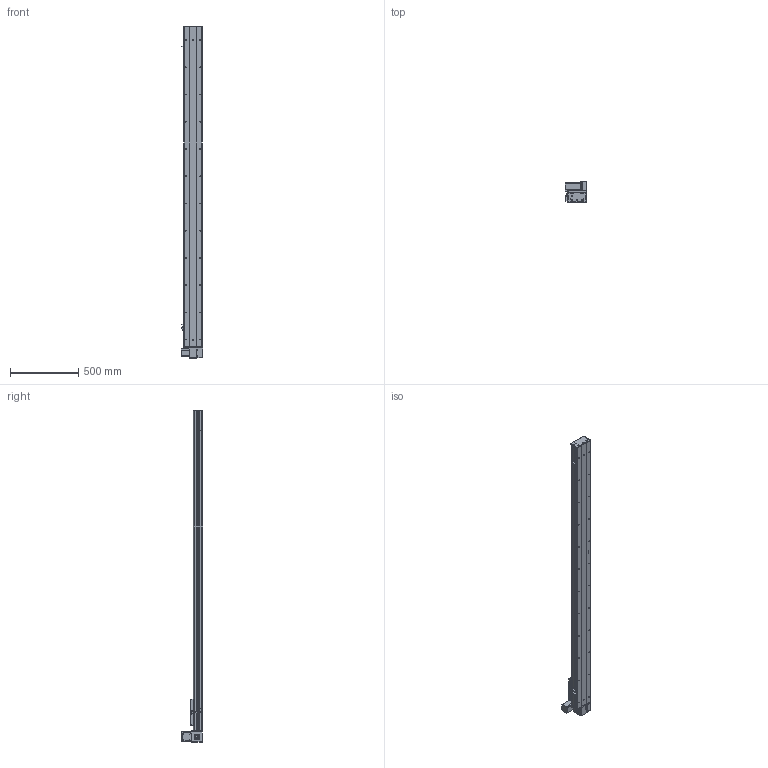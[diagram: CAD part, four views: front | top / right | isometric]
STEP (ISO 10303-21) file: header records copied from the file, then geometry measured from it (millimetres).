
FILE_DESCRIPTION (( 'STEP AP203' ), '1' );
FILE_NAME ('Y135CB-D90-S2050-UL-P400W.STEP', '2020-02-18T07:51:09', ( '微软用户' ), ( '微软中国' ), 'SwSTEP 2.0', 'SolidWorks 2017', '' );
FILE_SCHEMA (( 'CONFIG_CONTROL_DESIGN' ));
Length unit declared in the file: millimetre
Products named in the file (18): Y10B--々湍喘謫眊--666; C-詩湍揤踡え-陔; Y135CB-耜裔; Y135CB-D90-S2050-UL-P400W; 135CB--詩湍-CE; 135CB---遴掛极.-; Y100-135俋离換覜ん--; 35CB---喘謫眊楊擘啣; Y135C-陔俋离換覜結え-; 0B-埴倛裔啣; 5C--俋欶; 0B-源倛裔啣; C-雄赽釱--; 0B-萇儂楊擘啣; Y10B-耜蚾蟀諉啣----; san松下电机400不带刹车----; 00B-俋欶BM--; 5CB --掛极耜裔啣-
Assembly tree (21 placements, depth 2):
  Y135CB-D90-S2050-UL-P400W
    Y135CB-耜裔
    135CB---遴掛极.-
    35CB---喘謫眊楊擘啣
    0B-埴倛裔啣
    0B-源倛裔啣
    0B-萇儂楊擘啣
    san松下电机400不带刹车----
    5CB --掛极耜裔啣-  x2
    C-詩湍揤踡え-陔  x2
    135CB--詩湍-CE
    Y100-135俋离換覜ん--  x3
    Y135C-陔俋离換覜結え-
    5C--俋欶
    C-雄赽釱--
    Y10B-耜蚾蟀諉啣----
    00B-俋欶BM--
    Y10B--々湍喘謫眊--666
Bounding box: 157 x 158.7 x 2438 mm (x, y, z)
Volume: 7113266.4 mm3; surface area: 2810842.4 mm2
Topology: 21 solids, 21 shells, 965 faces, 2617 edges, 1734 vertices
Faces by surface type: cylinder 493, plane 456, cone 16
Entity records: 30359 total; most frequent: DIRECTION 5045, CARTESIAN_POINT 5032, ORIENTED_EDGE 4710, EDGE_CURVE 2355, AXIS2_PLACEMENT_3D 1847, VERTEX_POINT 1562, LINE 1351, VECTOR 1351
